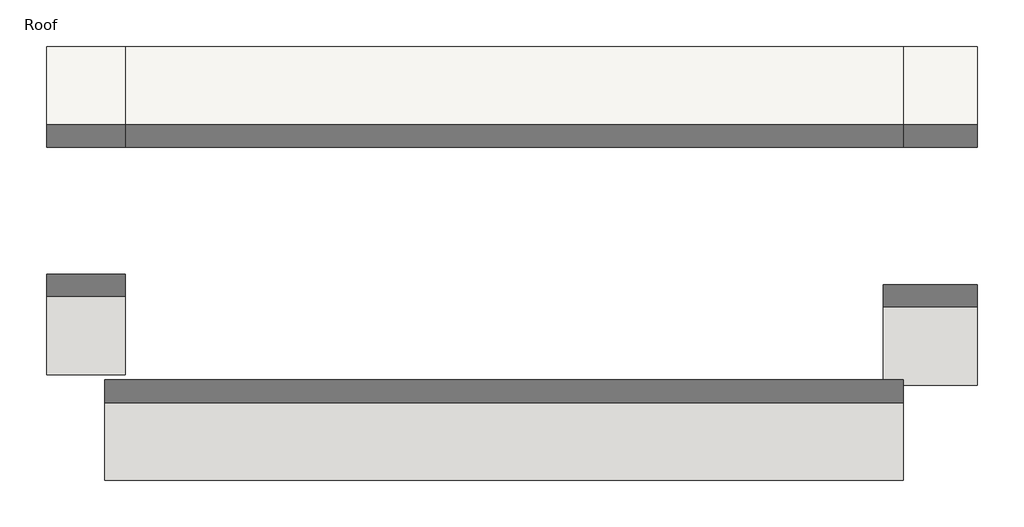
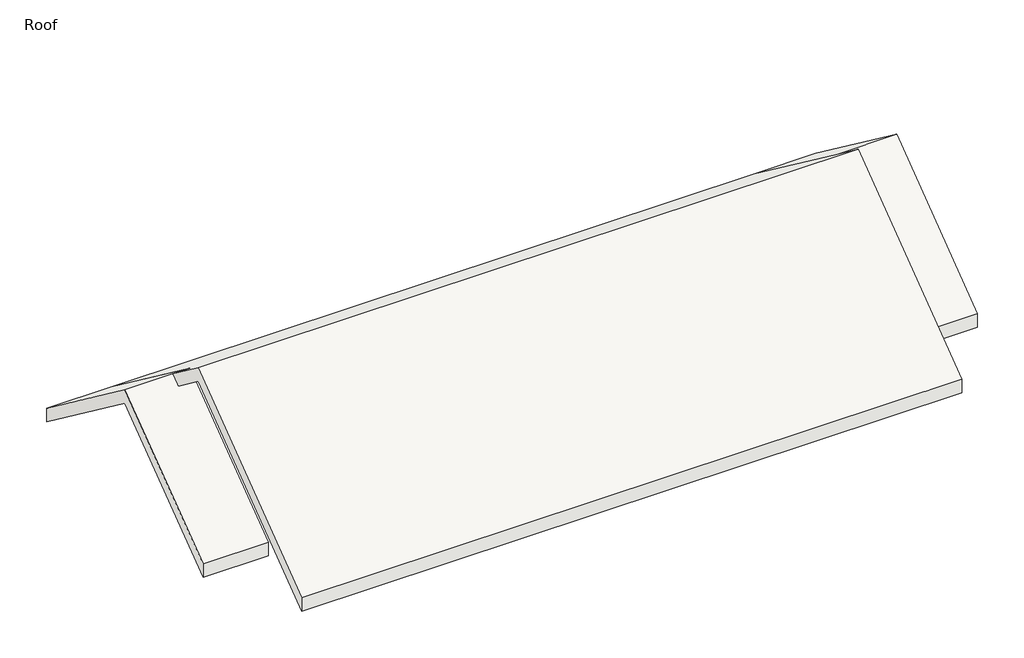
# One storey: 3 roofs.
"""IFC4 building model written with IfcOpenShell, lengths in millimetres."""

from ifc_helpers import new_model, si_unit, origin, place, context, project, spatial, faceted_brep, element, save

model = new_model("IFC4")

# Units and contexts
model_context = context("Model", 3, world=origin())
ifc_project = project(units=[si_unit("LENGTHUNIT", "METRE", prefix="MILLI")], contexts=[model_context])

# Site, building, storey
site = spatial("IfcSite", under=ifc_project)
building = spatial("IfcBuilding", under=site)
storey = spatial("IfcBuildingStorey", under=building, Name="Roof", Elevation=3300.0)

# Roofs
placement = place(None, origin())
element("IfcRoof", 1, ObjectType="Wood Rafter 235mm - Asphalt Shingle", at=placement, inside=storey, context=model_context, shape_type="Brep", body=[
    faceted_brep([(9058.9222239, 4147.8910467, 3075.0), (9058.9222239, 947.8910467, 5475.0), (9058.9222239, 732.0577134, 5636.875), (9058.9222239, 47.8910467, 6150.0), (-6041.0777761, 47.8910467, 6150.0), (-6041.0777761, 832.0577134, 5561.875), (-5649.0777761, 832.0577134, 5561.875), (-5649.0777761, 1047.8910467, 5400.0), (-5649.0777761, 4147.8910467, 3075.0), (9058.9222239, -4052.1089533, 3075.0), (-6041.0777761, -4052.1089533, 3075.0), (-6041.0777761, 47.8910467, 6473.75), (9058.9222239, 47.8910467, 6473.75), (9058.9222239, 947.8910467, 5798.75), (9058.9222239, 4147.8910467, 3398.75), (-5649.0777761, 4147.8910467, 3398.75), (-5649.0777761, 1047.8910467, 5723.75), (-6041.0777761, 1047.8910467, 5723.75), (-6041.0777761, -4052.1089533, 3398.75), (9058.9222239, -4052.1089533, 3398.75)], [[[0, 1, 2, 3, 4, 5, 6, 7, 8]], [[4, 3, 9, 10]], [[11, 12, 13, 14, 15, 16, 17]], [[12, 11, 18, 19]], [[19, 18, 10, 9]], [[14, 0, 8, 15]], [[4, 10, 18, 11, 17, 5]], [[3, 2, 1, 0, 14, 13, 12, 19, 9]], [[16, 6, 5, 17]], [[6, 16, 15, 8, 7]]]),
])
element("IfcRoof", 2, ObjectType="Wood Rafter 235mm - Asphalt Shingle", at=placement, inside=storey, context=model_context, shape_type="Brep", body=[
    faceted_brep([(10457.4222239, 4147.8910467, 3075.0), (10457.4222239, 947.8910467, 5475.0), (9058.9222239, 947.8910467, 5475.0), (9058.9222239, 4147.8910467, 3075.0), (10457.4222239, -2252.1089533, 3075.0), (8673.4222239, -2252.1089533, 3075.0), (8673.4222239, 947.8910467, 5475.0), (10457.4222239, 947.8910467, 5798.75), (10457.4222239, 4147.8910467, 3398.75), (9058.9222239, 4147.8910467, 3398.75), (9058.9222239, 947.8910467, 5798.75), (10457.4222239, -2252.1089533, 3398.75), (9058.9222239, 732.0577134, 5636.875), (8673.4222239, 732.0577134, 5636.875), (8673.4222239, -2252.1089533, 3398.75)], [[[0, 1, 2, 3]], [[1, 4, 5, 6, 2]], [[7, 8, 9, 10]], [[11, 7, 10, 12, 13, 14]], [[8, 0, 3, 9]], [[11, 14, 5, 4]], [[1, 0, 8, 7, 11, 4]], [[6, 5, 14, 13]], [[12, 2, 6, 13]], [[2, 12, 10, 9, 3]]]),
])
element("IfcRoof", 3, ObjectType="Wood Rafter 235mm - Asphalt Shingle", at=placement, inside=storey, context=model_context, shape_type="Brep", body=[
    faceted_brep([(-7139.5777761, 1047.8910467, 5400.0), (-7139.5777761, 4147.8910467, 3075.0), (-5649.0777761, 4147.8910467, 3075.0), (-5649.0777761, 1047.8910467, 5400.0), (-5649.0777761, -2052.1089533, 3075.0), (-7139.5777761, -2052.1089533, 3075.0), (-7139.5777761, 4147.8910467, 3398.75), (-7139.5777761, 1047.8910467, 5723.75), (-6041.0777761, 1047.8910467, 5723.75), (-5649.0777761, 1047.8910467, 5723.75), (-5649.0777761, 4147.8910467, 3398.75), (-7139.5777761, -2052.1089533, 3398.75), (-5649.0777761, -2052.1089533, 3398.75), (-5649.0777761, 832.0577134, 5561.875)], [[[0, 1, 2, 3]], [[4, 5, 0, 3]], [[6, 7, 8, 9, 10]], [[11, 12, 13, 9, 8, 7]], [[4, 12, 11, 5]], [[1, 6, 10, 2]], [[11, 7, 6, 1, 0, 5]], [[10, 9, 13, 12, 4, 3, 2]]]),
])

save(model, "model.ifc")
